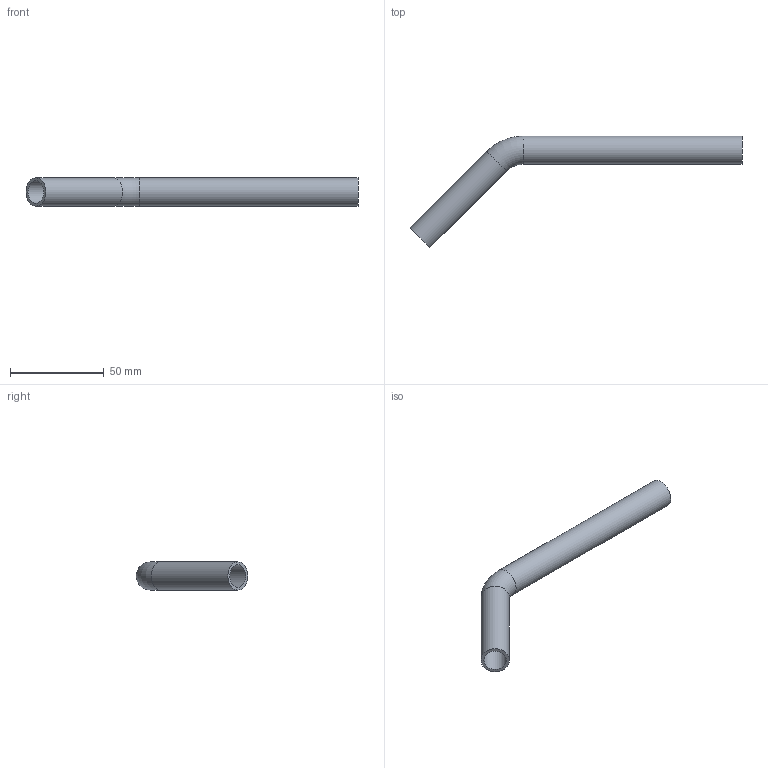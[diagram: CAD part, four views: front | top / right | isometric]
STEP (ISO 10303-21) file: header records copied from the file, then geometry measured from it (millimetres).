
FILE_DESCRIPTION((''),'2;1');
FILE_NAME('G:\Nirosan-Schmiedefeld\Technics\CAD\Bauteile VA\015\6904215(1).stp','2011-10-26T11:54:45',('herberg'),(''),'Autodesk Inventor 2009','Autodesk Inventor 2009','');
FILE_SCHEMA(('AUTOMOTIVE_DESIGN { 1 0 10303 214 1 1 1 1 }'));
Length unit declared in the file: millimetre
Products named in the file (1): 6904215(1)
Bounding box: 176.97 x 59.47 x 15 mm (x, y, z)
Volume: 12096.1 mm3; surface area: 16255.4 mm2
Topology: 1 solids, 1 shells, 8 faces, 14 edges, 8 vertices
Faces by surface type: cylinder 4, torus 2, plane 2
Full cylindrical faces by diameter (mm): 12 x2, 15 x2
Entity records: 194 total; most frequent: DIRECTION 34, CARTESIAN_POINT 25, AXIS2_PLACEMENT_3D 17, ORIENTED_EDGE 16, EDGE_LOOP 16, VERTEX_POINT 8, CIRCLE 8, EDGE_CURVE 8
